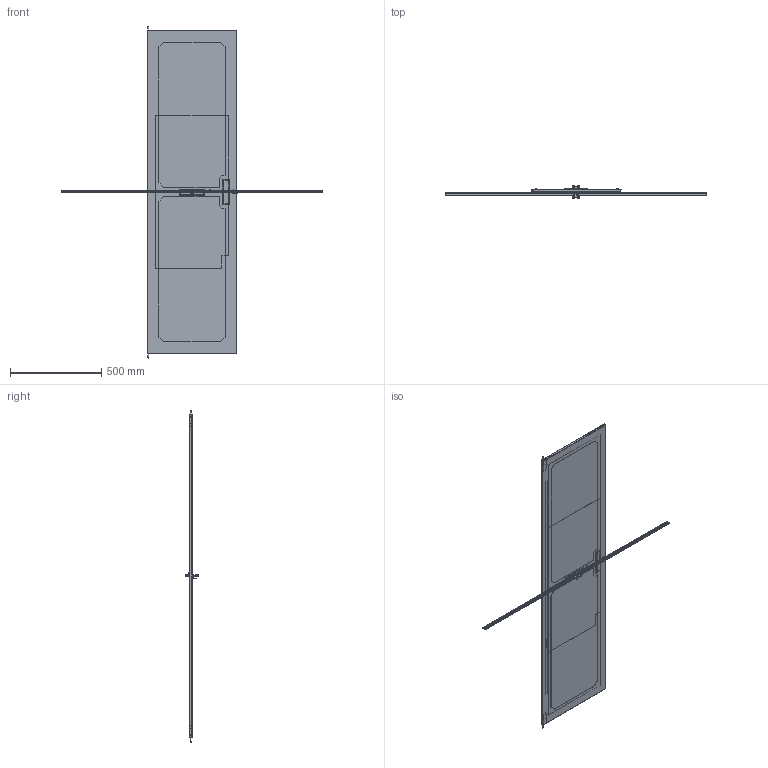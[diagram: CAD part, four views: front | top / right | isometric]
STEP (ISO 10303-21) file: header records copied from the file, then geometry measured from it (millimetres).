
FILE_DESCRIPTION( ( 'Unknown' ), '1' );
FILE_NAME( 'Q:/C2/WEB DRAWINGS/STEP/CDF1970V.stp', 'Unknown', ( 'Unknown' ), ( 'Unknown' ), 'XStep 1.0', 'Unknown', ' ' );
FILE_SCHEMA( ( 'CONFIG_CONTROL_DESIGN' ) );
Length unit declared in the file: millimetre
Products named in the file (11): Assem1; Assem2; Assem3; 1; 2; 3; 4; 5; 6; 7; 8
Bounding box: 1428.75 x 69.85 x 1819.55 mm (x, y, z)
Volume: 3443813.9 mm3; surface area: 6100903.4 mm2
Topology: 30 solids, 30 shells, 798 faces, 2023 edges, 1308 vertices
Faces by surface type: plane 567, cylinder 192, cone 17, bspline 16, torus 6
Full cylindrical faces by diameter (mm): 4.775 x6, 5.182 x3, 6.35 x15, 8.382 x2, 13.868 x2, 13.97 x2, 21.996 x2
Entity records: 8411 total; most frequent: CARTESIAN_POINT 1672, DIRECTION 1289, ORIENTED_EDGE 1270, EDGE_CURVE 635, LINE 475, VECTOR 475, VERTEX_POINT 418, AXIS2_PLACEMENT_3D 407
